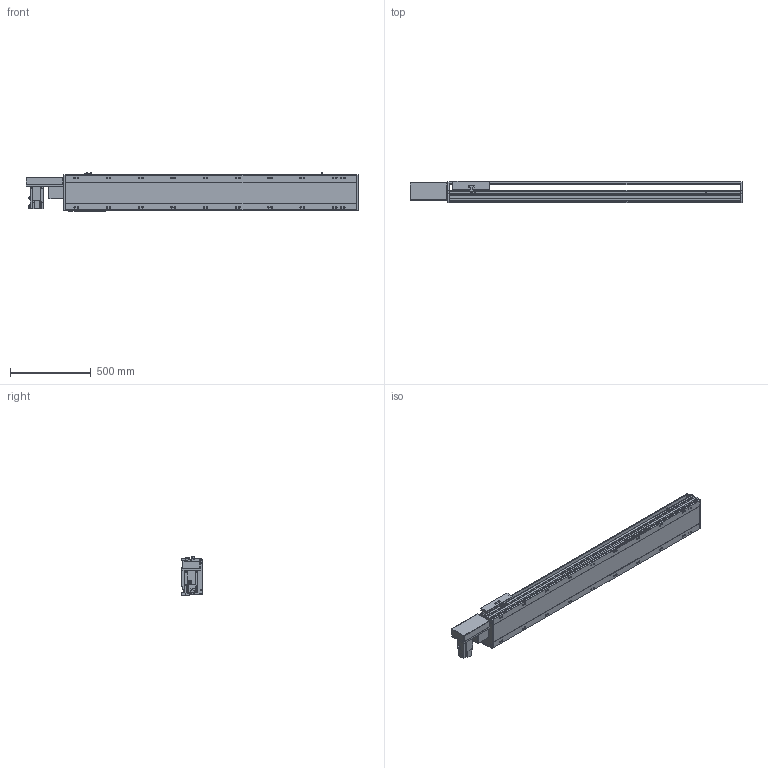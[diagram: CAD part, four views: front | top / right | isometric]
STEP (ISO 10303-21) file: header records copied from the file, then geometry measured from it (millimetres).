
FILE_DESCRIPTION(/* description */ ('STEP AP214'),/* implementation_level */ '2;1');
FILE_NAME(/* name */ 'PBS220-P40-S1450-R-T75-C1-N(0)',/* time_stamp */ '2022-06-11T10:01:27+02:00',/* author */ ('License CC BY-ND 4.0'),/* organization */ ('CADENAS'),/* preprocessor_version */ 'ST-DEVELOPER v18.102',/* originating_system */ 'PARTsolutions',/* authorisation */ ' ');
FILE_SCHEMA (('AUTOMOTIVE_DESIGN {1 0 10303 214 3 1 1}'));
Length unit declared in the file: millimetre
Products named in the file (7): PBS220-P40-S1450-R-T75-C1-N(0); PBS220_sensor; PBS220_plant; PBS220_sliser; T75-p1; PBS220T-R_motors; PBS220-S1450()_body
Assembly tree (8 placements, depth 2):
  PBS220-P40-S1450-R-T75-C1-N(0)
    PBS220_sensor  x3
    PBS220_plant
    PBS220_sliser
    T75-p1
    PBS220T-R_motors
    PBS220-S1450()_body
Bounding box: 2056 x 134 x 238.5 mm (x, y, z)
Volume: 27512408 mm3; surface area: 2617709.2 mm2
Topology: 8 solids, 8 shells, 938 faces, 2452 edges, 1594 vertices
Faces by surface type: plane 606, cylinder 288, cone 44
Full cylindrical faces by diameter (mm): 2.013 x4, 4.5 x14, 4.917 x4, 6 x7, 6.647 x8, 8 x10, 8.376 x20, 8.5 x20, 10 x6, 14 x20, 38 x2, 40 x1, 70 x1
Entity records: 26253 total; most frequent: CARTESIAN_POINT 4624, DIRECTION 4563, ORIENTED_EDGE 4178, EDGE_CURVE 2089, AXIS2_PLACEMENT_3D 1607, VERTEX_POINT 1448, LINE 1349, VECTOR 1349
